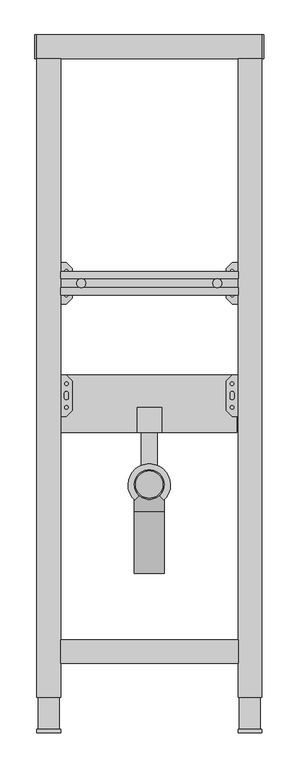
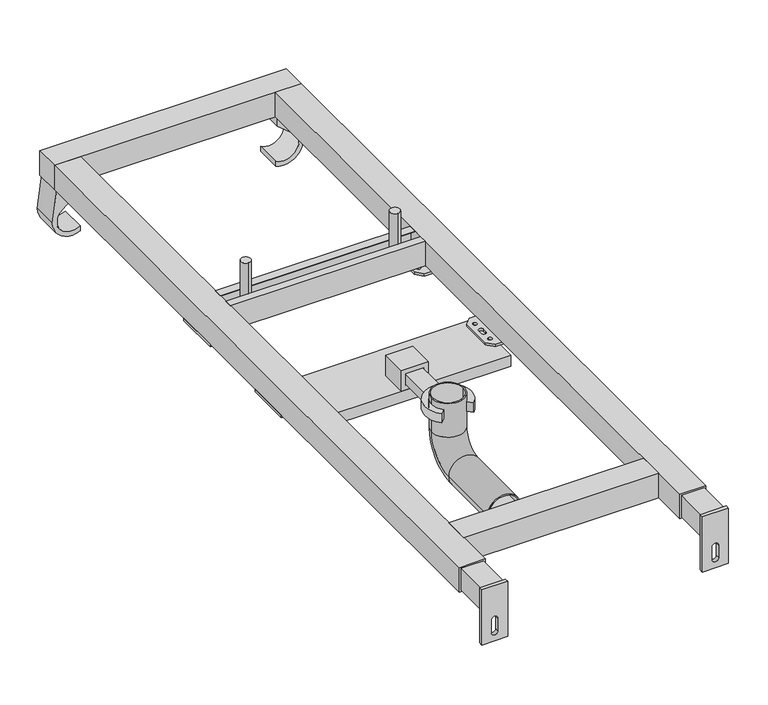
"""IFC4 building model written with IfcOpenShell, lengths in millimetres: sanitary terminal geometry, RSen_74_PF_FB_built-in element washbasin xs angle_wisa : xs washbasin cornerframe_wisa_built in element for washbasin."""

from ifc_helpers import new_model, si_unit, point, frame, frame_2d, origin, place, context, project, spatial, polyline, circle_curve, ellipse_curve, trimmed, segment, composite_curve, outline, extrude, source, transform, mapped, element, save
from ifc_brep_helpers import plane_surface, cylinder_surface, revolved_surface, advanced_brep


def sanitary_terminal_4a14e6a3(model_context):
    return source(origin(), model_context, "Body", "SolidModel", [
        extrude(outline(composite_curve([segment(polyline([(107.0, 193.2537909), (160.0, 186.7462091), (160.0, 153.2537909), (143.6481935, 153.2537909), (128.0557074, 172.5089077), (120.430598, 181.9251335)]), True, "CONTINUOUS"), segment(trimmed(circle_curve(frame_2d((107.0, 163.2537909)), 23.0), [point((120.430598, 181.9251335))], [point((87.6932654, 150.7537909))], True, "CARTESIAN"), True, "CONTINUOUS"), segment(polyline([(87.6932654, 150.7537909), (79.7282197, 150.7537909)]), True, "CONTINUOUS"), segment(trimmed(circle_curve(frame_2d((107.0, 163.2537909)), 30.0), [point((79.7282197, 150.7537909))], [point((107.0, 193.2537909))], False, "CARTESIAN"), True, "CONTINUOUS")], self_intersect=False)), frame((0.0, 1140.0, 0.0), z_axis=(0.0, 1.0, 0.0), x_axis=(0.0, 0.0, 1.0)), (0.0, 0.0, 1.0), 40.0),
        extrude(outline(composite_curve([segment(polyline([(143.6481935, -153.2537909), (160.0, -153.2537909), (160.0, -186.7462091), (107.0, -193.2537909)]), True, "CONTINUOUS"), segment(trimmed(circle_curve(frame_2d((107.0, -163.2537909)), 30.0), [point((107.0, -193.2537909))], [point((79.7282197, -150.7537909))], False, "CARTESIAN"), True, "CONTINUOUS"), segment(polyline([(79.7282197, -150.7537909), (87.6932654, -150.7537909)]), True, "CONTINUOUS"), segment(trimmed(circle_curve(frame_2d((107.0, -163.2537909)), 23.0), [point((87.6932654, -150.7537909))], [point((120.430598, -181.9251335))], True, "CARTESIAN"), True, "CONTINUOUS"), segment(polyline([(120.430598, -181.9251335), (128.0557074, -172.5089077), (143.6481935, -153.2537909)]), True, "CONTINUOUS")], self_intersect=False)), frame((0.0, 1140.0, 0.0), z_axis=(0.0, 1.0, 0.0), x_axis=(0.0, 0.0, 1.0)), (0.0, 0.0, 1.0), 40.0),
        extrude(outline(composite_curve([segment(polyline([(-17.8270587, 400.1688677), (-24.8992187, 393.0967077)]), True, "CONTINUOUS"), segment(trimmed(circle_curve(frame_2d((0.0, 418.75)), 35.75), [point((-24.8992187, 393.0967077))], [point((24.8992187, 393.0967077))], False, "CARTESIAN"), True, "CONTINUOUS"), segment(polyline([(24.8992187, 393.0967077), (17.8270587, 400.1688677)]), True, "CONTINUOUS"), segment(trimmed(circle_curve(frame_2d((0.0, 418.75)), 25.75), [point((17.8270587, 400.1688677))], [point((-17.8270587, 400.1688677))], True, "CARTESIAN"), True, "CONTINUOUS")], self_intersect=False)), frame((0.0, 0.0, 175.75), z_axis=(0.0, 0.0, 1.0), x_axis=(1.0, 0.0, 0.0)), (0.0, 0.0, 1.0), 15.0),
        extrude(outline(polyline([(-13.3214827, 550.0), (13.6785173, 550.0), (13.6785173, 445.8), (-13.3214827, 445.8), (-13.3214827, 550.0)])), frame((0.0, 0.0, 164.75), z_axis=(0.0, 0.0, 1.0), x_axis=(1.0, 0.0, 0.0)), (0.0, 0.0, 1.0), 16.0),
        extrude(outline(polyline([(189.5, 20.9285173), (189.5, -20.5714827), (156.0, -20.5714827), (156.0, 20.9285173), (189.5, 20.9285173)]), holes=[polyline([(182.0, 13.75), (163.5, 13.75), (163.5, -13.75), (182.0, -13.75), (182.0, 13.75)])]), frame((0.0, 508.0, 0.0), z_axis=(0.0, 1.0, 0.0), x_axis=(0.0, 0.0, 1.0)), (0.0, 0.0, 1.0), 42.0),
        extrude(outline(polyline([(148.0, 508.0), (-150.0, 508.0), (-150.0, 605.0), (148.0, 605.0), (148.0, 508.0)])), frame((0.0, 0.0, 138.0), z_axis=(0.0, 0.0, 1.0), x_axis=(1.0, 0.0, 0.0)), (0.0, 0.0, 1.0), 18.0),
        advanced_brep(
        [(-25.0, 419.5, 200.0), (25.0, 419.5, 200.0), (-23.0, 419.5, 200.0), (23.0, 419.5, 200.0), (-25.0, 419.5, 145.0), (25.0, 419.5, 145.0), (25.0, 374.5, 100.0), (-25.0, 374.5, 100.0), (-25.0, 269.5, 100.0), (25.0, 269.5, 100.0), (-23.0, 269.5, 100.0), (23.0, 269.5, 100.0), (-23.0, 419.5, 145.0), (23.0, 419.5, 145.0), (23.0, 374.5, 100.0), (-23.0, 374.5, 100.0)],
        [
            (0, 1, circle_curve(frame((0.0, 419.5, 200.0), z_axis=(0.0, 0.0, 1.0), x_axis=(1.0, 0.0, 0.0)), 25.0)),
            (1, 0, circle_curve(frame((0.0, 419.5, 200.0), z_axis=(0.0, 0.0, 1.0), x_axis=(1.0, 0.0, 0.0)), 25.0)),
            (2, 3, circle_curve(frame((0.0, 419.5, 200.0), z_axis=(0.0, 0.0, -1.0), x_axis=(1.0, 0.0, 0.0)), 23.0)),
            (3, 2, circle_curve(frame((0.0, 419.5, 200.0), z_axis=(0.0, 0.0, -1.0), x_axis=(1.0, 0.0, 0.0)), 23.0)),
            (0, 4),
            (4, 5, circle_curve(frame((0.0, 419.5, 145.0), z_axis=(0.0, 0.0, 1.0), x_axis=(1.0, 0.0, 0.0)), 25.0)),
            (5, 1),
            (5, 4, circle_curve(frame((0.0, 419.5, 145.0), z_axis=(0.0, 0.0, 1.0), x_axis=(1.0, 0.0, 0.0)), 25.0)),
            (6, 5, circle_curve(frame((25.0, 374.5, 145.0), z_axis=(1.0, 0.0, 0.0), x_axis=(0.0, 1.0, 0.0)), 45.0)),
            (4, 7, circle_curve(frame((-25.0, 374.5, 145.0), z_axis=(-1.0, 0.0, 0.0), x_axis=(0.0, 1.0, 0.0)), 45.0)),
            (7, 6, circle_curve(frame((0.0, 374.5, 100.0), z_axis=(0.0, 1.0, 0.0), x_axis=(1.0, 0.0, 0.0)), 25.0)),
            (6, 7, circle_curve(frame((0.0, 374.5, 100.0), z_axis=(0.0, 1.0, 0.0), x_axis=(1.0, 0.0, 0.0)), 25.0)),
            (8, 9, circle_curve(frame((0.0, 269.5, 100.0), z_axis=(0.0, -1.0, 0.0), x_axis=(1.0, 0.0, 0.0)), 25.0)),
            (9, 8, circle_curve(frame((0.0, 269.5, 100.0), z_axis=(0.0, -1.0, 0.0), x_axis=(1.0, 0.0, 0.0)), 25.0)),
            (10, 11, circle_curve(frame((0.0, 269.5, 100.0), z_axis=(0.0, 1.0, 0.0), x_axis=(1.0, 0.0, 0.0)), 23.0)),
            (11, 10, circle_curve(frame((0.0, 269.5, 100.0), z_axis=(0.0, 1.0, 0.0), x_axis=(1.0, 0.0, 0.0)), 23.0)),
            (7, 8),
            (9, 6),
            (2, 12),
            (12, 13, circle_curve(frame((0.0, 419.5, 145.0), z_axis=(0.0, 0.0, -1.0), x_axis=(1.0, 0.0, 0.0)), 23.0)),
            (13, 3),
            (13, 12, circle_curve(frame((0.0, 419.5, 145.0), z_axis=(0.0, 0.0, -1.0), x_axis=(1.0, 0.0, 0.0)), 23.0)),
            (14, 13, circle_curve(frame((23.0, 374.5, 145.0), z_axis=(1.0, 0.0, 0.0), x_axis=(0.0, 1.0, 0.0)), 45.0)),
            (12, 15, circle_curve(frame((-23.0, 374.5, 145.0), z_axis=(-1.0, 0.0, 0.0), x_axis=(0.0, 1.0, 0.0)), 45.0)),
            (15, 14, circle_curve(frame((0.0, 374.5, 100.0), z_axis=(0.0, -1.0, 0.0), x_axis=(1.0, 0.0, 0.0)), 23.0)),
            (14, 15, circle_curve(frame((0.0, 374.5, 100.0), z_axis=(0.0, -1.0, 0.0), x_axis=(1.0, 0.0, 0.0)), 23.0)),
            (15, 10),
            (11, 14),
        ],
        [
            plane_surface(frame((0.0, 419.5, 200.0), z_axis=(0.0, 0.0, 1.0), x_axis=(1.0, 0.0, 0.0))),
            cylinder_surface(frame((0.0, 419.5, 200.0), z_axis=(0.0, 0.0, 1.0), x_axis=(1.0, 0.0, 0.0)), 25.0),
            revolved_surface(trimmed(ellipse_curve(frame((0.0, 419.5, 145.0), z_axis=(0.0, 0.0, 1.0), x_axis=(1.0, 0.0, 0.0)), 25.0, 25.0), [point((-25.0, 419.5, 145.0))], [point((25.0, 419.5, 145.0))], True, "CARTESIAN"), (0.0, 374.5, 145.0), (-1.0, 0.0, 0.0)),
            revolved_surface(trimmed(ellipse_curve(frame((0.0, 419.5, 145.0), z_axis=(0.0, 0.0, 1.0), x_axis=(1.0, 0.0, 0.0)), 25.0, 25.0), [point((25.0, 419.5, 145.0))], [point((-25.0, 419.5, 145.0))], True, "CARTESIAN"), (0.0, 374.5, 145.0), (-1.0, 0.0, 0.0)),
            plane_surface(frame((0.0, 269.5, 100.0), z_axis=(0.0, -1.0, 0.0), x_axis=(1.0, 0.0, 0.0))),
            cylinder_surface(frame((0.0, 374.5, 100.0), z_axis=(0.0, 1.0, 0.0), x_axis=(1.0, 0.0, 0.0)), 25.0),
            revolved_surface(polyline([(23.0, 419.5, 145.0), (23.0, 419.5, 200.0)]), (0.0, 419.5, 200.0), (0.0, 0.0, -1.0)),
            revolved_surface(trimmed(ellipse_curve(frame((0.0, 419.5, 145.0), z_axis=(0.0, 0.0, -1.0), x_axis=(1.0, 0.0, 0.0)), 23.0, 23.0), [point((-23.0, 419.5, 145.0))], [point((23.0, 419.5, 145.0))], True, "CARTESIAN"), (0.0, 374.5, 145.0), (-1.0, 0.0, 0.0)),
            revolved_surface(trimmed(ellipse_curve(frame((0.0, 419.5, 145.0), z_axis=(0.0, 0.0, -1.0), x_axis=(1.0, 0.0, 0.0)), 23.0, 23.0), [point((23.0, 419.5, 145.0))], [point((-23.0, 419.5, 145.0))], True, "CARTESIAN"), (0.0, 374.5, 145.0), (-1.0, 0.0, 0.0)),
            revolved_surface(polyline([(23.0, 269.5, 100.0), (23.0, 374.5, 100.0)]), (0.0, 374.5, 100.0), (0.0, -1.0, 0.0)),
        ],
        [
            (0, [[1, 2], [3, 4]]),
            (1, [[-1, 5, 6, 7]]),
            (1, [[-2, -7, 8, -5]]),
            (2, [[9, -6, 10, 11]]),
            (3, [[-10, -8, -9, 12]]),
            (4, [[13, 14], [15, 16]]),
            (5, [[-11, 17, -14, 18]]),
            (5, [[-12, -18, -13, -17]]),
            (6, [[-3, 19, 20, 21]]),
            (6, [[-4, -21, 22, -19]]),
            (7, [[23, -20, 24, 25]]),
            (8, [[-24, -22, -23, 26]]),
            (9, [[-25, 27, -16, 28]]),
            (9, [[-26, -28, -15, -27]]),
        ],
    ),
        extrude(outline(composite_curve([segment(trimmed(circle_curve(frame_2d((-115.0, 760.0)), 7.5154833), [point((-115.0, 767.5154833))], [point((-115.0, 752.4845167))], False, "CARTESIAN"), True, "CONTINUOUS"), segment(trimmed(circle_curve(frame_2d((-115.0, 760.0)), 7.5154833), [point((-115.0, 752.4845167))], [point((-115.0, 767.5154833))], False, "CARTESIAN"), True, "CONTINUOUS")], self_intersect=False)), frame((0.0, 0.0, 180.0), z_axis=(0.0, 0.0, 1.0), x_axis=(1.0, 0.0, 0.0)), (0.0, 0.0, 1.0), 70.0),
        extrude(outline(composite_curve([segment(trimmed(circle_curve(frame_2d((115.0, 760.0)), 7.5154833), [point((115.0, 767.5154833))], [point((115.0, 752.4845167))], False, "CARTESIAN"), True, "CONTINUOUS"), segment(trimmed(circle_curve(frame_2d((115.0, 760.0)), 7.5154833), [point((115.0, 752.4845167))], [point((115.0, 767.5154833))], False, "CARTESIAN"), True, "CONTINUOUS")], self_intersect=False)), frame((0.0, 0.0, 180.0), z_axis=(0.0, 0.0, 1.0), x_axis=(1.0, 0.0, 0.0)), (0.0, 0.0, 1.0), 70.0),
        extrude(outline(polyline([(740.0, 200.0), (752.4845167, 200.0), (752.4845167, 198.5), (741.5, 198.5), (741.5, 161.5), (778.5, 161.5), (778.5, 198.5), (767.5154833, 198.5), (767.5154833, 200.0), (780.0, 200.0), (780.0, 160.0), (740.0, 160.0), (740.0, 200.0)])), frame((-150.0, 0.0, 0.0), z_axis=(1.0, 0.0, 0.0), x_axis=(0.0, 1.0, 0.0)), (0.0, 0.0, 1.0), 300.0),
        extrude(outline(polyline([(140.0, 725.0), (130.0, 735.0), (130.0, 785.0), (140.0, 795.0), (190.0, 795.0), (190.0, 725.0), (140.0, 725.0)]), holes=[composite_curve([segment(trimmed(circle_curve(frame_2d((175.0, 760.0)), 4.5), [point((175.0, 755.5))], [point((175.0, 764.5))], True, "CARTESIAN"), True, "CONTINUOUS"), segment(trimmed(circle_curve(frame_2d((175.0, 760.0)), 4.5), [point((175.0, 764.5))], [point((175.0, 755.5))], True, "CARTESIAN"), True, "CONTINUOUS")], self_intersect=False), composite_curve([segment(trimmed(circle_curve(frame_2d((175.0, 780.0)), 4.5), [point((175.0, 775.5))], [point((175.0, 784.5))], True, "CARTESIAN"), True, "CONTINUOUS"), segment(trimmed(circle_curve(frame_2d((175.0, 780.0)), 4.5), [point((175.0, 784.5))], [point((175.0, 775.5))], True, "CARTESIAN"), True, "CONTINUOUS")], self_intersect=False), composite_curve([segment(trimmed(circle_curve(frame_2d((175.0, 740.0)), 4.5), [point((175.0, 735.5))], [point((175.0, 744.5))], True, "CARTESIAN"), True, "CONTINUOUS"), segment(trimmed(circle_curve(frame_2d((175.0, 740.0)), 4.5), [point((175.0, 744.5))], [point((175.0, 735.5))], True, "CARTESIAN"), True, "CONTINUOUS")], self_intersect=False), composite_curve([segment(trimmed(circle_curve(frame_2d((140.0, 780.0)), 2.9795218), [point((140.0, 777.0204782))], [point((140.0, 782.9795218))], True, "CARTESIAN"), True, "CONTINUOUS"), segment(trimmed(circle_curve(frame_2d((140.0, 780.0)), 2.9795218), [point((140.0, 782.9795218))], [point((140.0, 777.0204782))], True, "CARTESIAN"), True, "CONTINUOUS")], self_intersect=False), composite_curve([segment(trimmed(circle_curve(frame_2d((140.0, 740.0)), 2.9795218), [point((140.0, 737.0204782))], [point((140.0, 742.9795218))], True, "CARTESIAN"), True, "CONTINUOUS"), segment(trimmed(circle_curve(frame_2d((140.0, 740.0)), 2.9795218), [point((140.0, 742.9795218))], [point((140.0, 737.0204782))], True, "CARTESIAN"), True, "CONTINUOUS")], self_intersect=False), composite_curve([segment(trimmed(circle_curve(frame_2d((140.0, 763.5)), 3.5), [point((143.5, 763.5))], [point((136.5, 763.5))], True, "CARTESIAN"), True, "CONTINUOUS"), segment(polyline([(136.5, 763.5), (136.5, 756.5)]), True, "CONTINUOUS"), segment(trimmed(circle_curve(frame_2d((140.0, 756.5)), 3.5), [point((136.5, 756.5))], [point((143.5, 756.5))], True, "CARTESIAN"), True, "CONTINUOUS"), segment(polyline([(143.5, 756.5), (143.5, 763.5)]), True, "CONTINUOUS")], self_intersect=False)]), frame((0.0, 0.0, 156.0), z_axis=(0.0, 0.0, 1.0), x_axis=(1.0, 0.0, 0.0)), (0.0, 0.0, 1.0), 4.0),
        extrude(outline(polyline([(-140.0, 725.0), (-190.0, 725.0), (-190.0, 795.0), (-140.0, 795.0), (-130.0, 785.0), (-130.0, 735.0), (-140.0, 725.0)]), holes=[composite_curve([segment(trimmed(circle_curve(frame_2d((-175.0, 760.0)), 4.5), [point((-175.0, 755.5))], [point((-175.0, 764.5))], True, "CARTESIAN"), True, "CONTINUOUS"), segment(trimmed(circle_curve(frame_2d((-175.0, 760.0)), 4.5), [point((-175.0, 764.5))], [point((-175.0, 755.5))], True, "CARTESIAN"), True, "CONTINUOUS")], self_intersect=False), composite_curve([segment(trimmed(circle_curve(frame_2d((-175.0, 780.0)), 4.5), [point((-175.0, 775.5))], [point((-175.0, 784.5))], True, "CARTESIAN"), True, "CONTINUOUS"), segment(trimmed(circle_curve(frame_2d((-175.0, 780.0)), 4.5), [point((-175.0, 784.5))], [point((-175.0, 775.5))], True, "CARTESIAN"), True, "CONTINUOUS")], self_intersect=False), composite_curve([segment(trimmed(circle_curve(frame_2d((-175.0, 740.0)), 4.5), [point((-175.0, 735.5))], [point((-175.0, 744.5))], True, "CARTESIAN"), True, "CONTINUOUS"), segment(trimmed(circle_curve(frame_2d((-175.0, 740.0)), 4.5), [point((-175.0, 744.5))], [point((-175.0, 735.5))], True, "CARTESIAN"), True, "CONTINUOUS")], self_intersect=False), composite_curve([segment(trimmed(circle_curve(frame_2d((-140.0, 780.0)), 2.9795218), [point((-140.0, 777.0204782))], [point((-140.0, 782.9795218))], True, "CARTESIAN"), True, "CONTINUOUS"), segment(trimmed(circle_curve(frame_2d((-140.0, 780.0)), 2.9795218), [point((-140.0, 782.9795218))], [point((-140.0, 777.0204782))], True, "CARTESIAN"), True, "CONTINUOUS")], self_intersect=False), composite_curve([segment(trimmed(circle_curve(frame_2d((-140.0, 740.0)), 2.9795218), [point((-140.0, 737.0204782))], [point((-140.0, 742.9795218))], True, "CARTESIAN"), True, "CONTINUOUS"), segment(trimmed(circle_curve(frame_2d((-140.0, 740.0)), 2.9795218), [point((-140.0, 742.9795218))], [point((-140.0, 737.0204782))], True, "CARTESIAN"), True, "CONTINUOUS")], self_intersect=False), composite_curve([segment(polyline([(-143.5, 763.5), (-143.5, 756.5)]), True, "CONTINUOUS"), segment(trimmed(circle_curve(frame_2d((-140.0, 756.5)), 3.5), [point((-143.5, 756.5))], [point((-136.5, 756.5))], True, "CARTESIAN"), True, "CONTINUOUS"), segment(polyline([(-136.5, 756.5), (-136.5, 763.5)]), True, "CONTINUOUS"), segment(trimmed(circle_curve(frame_2d((-140.0, 763.5)), 3.5), [point((-136.5, 763.5))], [point((-143.5, 763.5))], True, "CARTESIAN"), True, "CONTINUOUS")], self_intersect=False)]), frame((0.0, 0.0, 156.0), z_axis=(0.0, 0.0, 1.0), x_axis=(1.0, 0.0, 0.0)), (0.0, 0.0, 1.0), 4.0),
        extrude(outline(polyline([(140.0, 535.0), (130.0, 545.0), (130.0, 595.0), (140.0, 605.0), (190.0, 605.0), (190.0, 535.0), (140.0, 535.0)]), holes=[composite_curve([segment(trimmed(circle_curve(frame_2d((175.0, 570.0)), 4.5), [point((175.0, 565.5))], [point((175.0, 574.5))], True, "CARTESIAN"), True, "CONTINUOUS"), segment(trimmed(circle_curve(frame_2d((175.0, 570.0)), 4.5), [point((175.0, 574.5))], [point((175.0, 565.5))], True, "CARTESIAN"), True, "CONTINUOUS")], self_intersect=False), composite_curve([segment(trimmed(circle_curve(frame_2d((175.0, 590.0)), 4.5), [point((175.0, 585.5))], [point((175.0, 594.5))], True, "CARTESIAN"), True, "CONTINUOUS"), segment(trimmed(circle_curve(frame_2d((175.0, 590.0)), 4.5), [point((175.0, 594.5))], [point((175.0, 585.5))], True, "CARTESIAN"), True, "CONTINUOUS")], self_intersect=False), composite_curve([segment(trimmed(circle_curve(frame_2d((175.0, 550.0)), 4.5), [point((175.0, 545.5))], [point((175.0, 554.5))], True, "CARTESIAN"), True, "CONTINUOUS"), segment(trimmed(circle_curve(frame_2d((175.0, 550.0)), 4.5), [point((175.0, 554.5))], [point((175.0, 545.5))], True, "CARTESIAN"), True, "CONTINUOUS")], self_intersect=False), composite_curve([segment(trimmed(circle_curve(frame_2d((140.0, 590.0)), 2.9795218), [point((140.0, 587.0204782))], [point((140.0, 592.9795218))], True, "CARTESIAN"), True, "CONTINUOUS"), segment(trimmed(circle_curve(frame_2d((140.0, 590.0)), 2.9795218), [point((140.0, 592.9795218))], [point((140.0, 587.0204782))], True, "CARTESIAN"), True, "CONTINUOUS")], self_intersect=False), composite_curve([segment(trimmed(circle_curve(frame_2d((140.0, 550.0)), 2.9795218), [point((140.0, 547.0204782))], [point((140.0, 552.9795218))], True, "CARTESIAN"), True, "CONTINUOUS"), segment(trimmed(circle_curve(frame_2d((140.0, 550.0)), 2.9795218), [point((140.0, 552.9795218))], [point((140.0, 547.0204782))], True, "CARTESIAN"), True, "CONTINUOUS")], self_intersect=False), composite_curve([segment(trimmed(circle_curve(frame_2d((140.0, 573.5)), 3.5), [point((143.5, 573.5))], [point((136.5, 573.5))], True, "CARTESIAN"), True, "CONTINUOUS"), segment(polyline([(136.5, 573.5), (136.5, 566.5)]), True, "CONTINUOUS"), segment(trimmed(circle_curve(frame_2d((140.0, 566.5)), 3.5), [point((136.5, 566.5))], [point((143.5, 566.5))], True, "CARTESIAN"), True, "CONTINUOUS"), segment(polyline([(143.5, 566.5), (143.5, 573.5)]), True, "CONTINUOUS")], self_intersect=False)]), frame((0.0, 0.0, 156.0), z_axis=(0.0, 0.0, 1.0), x_axis=(1.0, 0.0, 0.0)), (0.0, 0.0, 1.0), 4.0),
        extrude(outline(polyline([(-140.0, 535.0), (-190.0, 535.0), (-190.0, 605.0), (-140.0, 605.0), (-130.0, 595.0), (-130.0, 545.0), (-140.0, 535.0)]), holes=[composite_curve([segment(trimmed(circle_curve(frame_2d((-175.0, 570.0)), 4.5), [point((-175.0, 565.5))], [point((-175.0, 574.5))], True, "CARTESIAN"), True, "CONTINUOUS"), segment(trimmed(circle_curve(frame_2d((-175.0, 570.0)), 4.5), [point((-175.0, 574.5))], [point((-175.0, 565.5))], True, "CARTESIAN"), True, "CONTINUOUS")], self_intersect=False), composite_curve([segment(trimmed(circle_curve(frame_2d((-175.0, 590.0)), 4.5), [point((-175.0, 585.5))], [point((-175.0, 594.5))], True, "CARTESIAN"), True, "CONTINUOUS"), segment(trimmed(circle_curve(frame_2d((-175.0, 590.0)), 4.5), [point((-175.0, 594.5))], [point((-175.0, 585.5))], True, "CARTESIAN"), True, "CONTINUOUS")], self_intersect=False), composite_curve([segment(trimmed(circle_curve(frame_2d((-175.0, 550.0)), 4.5), [point((-175.0, 545.5))], [point((-175.0, 554.5))], True, "CARTESIAN"), True, "CONTINUOUS"), segment(trimmed(circle_curve(frame_2d((-175.0, 550.0)), 4.5), [point((-175.0, 554.5))], [point((-175.0, 545.5))], True, "CARTESIAN"), True, "CONTINUOUS")], self_intersect=False), composite_curve([segment(trimmed(circle_curve(frame_2d((-140.0, 590.0)), 2.9795218), [point((-140.0, 587.0204782))], [point((-140.0, 592.9795218))], True, "CARTESIAN"), True, "CONTINUOUS"), segment(trimmed(circle_curve(frame_2d((-140.0, 590.0)), 2.9795218), [point((-140.0, 592.9795218))], [point((-140.0, 587.0204782))], True, "CARTESIAN"), True, "CONTINUOUS")], self_intersect=False), composite_curve([segment(trimmed(circle_curve(frame_2d((-140.0, 550.0)), 2.9795218), [point((-140.0, 547.0204782))], [point((-140.0, 552.9795218))], True, "CARTESIAN"), True, "CONTINUOUS"), segment(trimmed(circle_curve(frame_2d((-140.0, 550.0)), 2.9795218), [point((-140.0, 552.9795218))], [point((-140.0, 547.0204782))], True, "CARTESIAN"), True, "CONTINUOUS")], self_intersect=False), composite_curve([segment(polyline([(-143.5, 573.5), (-143.5, 566.5)]), True, "CONTINUOUS"), segment(trimmed(circle_curve(frame_2d((-140.0, 566.5)), 3.5), [point((-143.5, 566.5))], [point((-136.5, 566.5))], True, "CARTESIAN"), True, "CONTINUOUS"), segment(polyline([(-136.5, 566.5), (-136.5, 573.5)]), True, "CONTINUOUS"), segment(trimmed(circle_curve(frame_2d((-140.0, 573.5)), 3.5), [point((-136.5, 573.5))], [point((-143.5, 573.5))], True, "CARTESIAN"), True, "CONTINUOUS")], self_intersect=False)]), frame((0.0, 0.0, 156.0), z_axis=(0.0, 0.0, 1.0), x_axis=(1.0, 0.0, 0.0)), (0.0, 0.0, 1.0), 4.0),
        extrude(outline(polyline([(-187.5, 549.0), (-152.5, 549.0), (-152.5, 6.0), (-187.5, 6.0), (-187.5, 549.0)])), frame((0.0, 0.0, 162.5), z_axis=(0.0, 0.0, 1.0), x_axis=(1.0, 0.0, 0.0)), (0.0, 0.0, 1.0), 35.0),
        extrude(outline(polyline([(152.4841074, 549.0), (187.4841074, 549.0), (187.4841074, 6.0), (152.4841074, 6.0), (152.4841074, 549.0)])), frame((0.0, 0.0, 162.5), z_axis=(0.0, 0.0, 1.0), x_axis=(1.0, 0.0, 0.0)), (0.0, 0.0, 1.0), 35.0),
        extrude(outline(polyline([(200.0, 190.0), (200.0, 150.0), (110.0, 150.0), (110.0, 190.0), (200.0, 190.0)]), holes=[composite_curve([segment(trimmed(circle_curve(frame_2d((145.0, 170.0)), 5.0), [point((145.0, 165.0))], [point((145.0, 175.0))], True, "CARTESIAN"), True, "CONTINUOUS"), segment(polyline([(145.0, 175.0), (125.0, 175.0)]), True, "CONTINUOUS"), segment(trimmed(circle_curve(frame_2d((125.0, 170.0)), 5.0), [point((125.0, 175.0))], [point((125.0, 165.0))], True, "CARTESIAN"), True, "CONTINUOUS"), segment(polyline([(125.0, 165.0), (145.0, 165.0)]), True, "CONTINUOUS")], self_intersect=False)]), frame((0.0, 0.0, 0.0), z_axis=(0.0, 1.0, 0.0), x_axis=(0.0, 0.0, 1.0)), (0.0, 0.0, 1.0), 6.0),
        extrude(outline(polyline([(200.0, -150.0), (200.0, -190.0), (110.0, -190.0), (110.0, -150.0), (200.0, -150.0)]), holes=[composite_curve([segment(trimmed(circle_curve(frame_2d((145.0, -170.0)), 5.0), [point((145.0, -175.0))], [point((145.0, -165.0))], True, "CARTESIAN"), True, "CONTINUOUS"), segment(polyline([(145.0, -165.0), (125.0, -165.0)]), True, "CONTINUOUS"), segment(trimmed(circle_curve(frame_2d((125.0, -170.0)), 5.0), [point((125.0, -165.0))], [point((125.0, -175.0))], True, "CARTESIAN"), True, "CONTINUOUS"), segment(polyline([(125.0, -175.0), (145.0, -175.0)]), True, "CONTINUOUS")], self_intersect=False)]), frame((0.0, 0.0, 0.0), z_axis=(0.0, 1.0, 0.0), x_axis=(0.0, 0.0, 1.0)), (0.0, 0.0, 1.0), 6.0),
        extrude(outline(polyline([(150.0, 157.0), (150.0, 117.0), (-150.0, 117.0), (-150.0, 157.0), (150.0, 157.0)])), frame((0.0, 0.0, 160.0), z_axis=(0.0, 0.0, 1.0), x_axis=(1.0, 0.0, 0.0)), (0.0, 0.0, 1.0), 40.0),
        extrude(outline(polyline([(-150.0, 60.0), (-190.0, 60.0), (-190.0, 1140.0), (-150.0, 1140.0), (-150.0, 60.0)])), frame((0.0, 0.0, 160.0), z_axis=(0.0, 0.0, 1.0), x_axis=(1.0, 0.0, 0.0)), (0.0, 0.0, 1.0), 40.0),
        extrude(outline(polyline([(190.0, 60.0), (150.0, 60.0), (150.0, 1140.0), (190.0, 1140.0), (190.0, 60.0)])), frame((0.0, 0.0, 160.0), z_axis=(0.0, 0.0, 1.0), x_axis=(1.0, 0.0, 0.0)), (0.0, 0.0, 1.0), 40.0),
        extrude(outline(polyline([(190.0, 1180.0), (190.0, 1140.0), (-190.0, 1140.0), (-190.0, 1180.0), (190.0, 1180.0)])), frame((0.0, 0.0, 160.0), z_axis=(0.0, 0.0, 1.0), x_axis=(1.0, 0.0, 0.0)), (0.0, 0.0, 1.0), 40.0),
    ])


if __name__ == "__main__":
    model = new_model("IFC4")
    model_context = context("Model", 3, world=origin())
    ifc_project = project(units=[si_unit("LENGTHUNIT", "METRE", prefix="MILLI")], contexts=[model_context])
    site = spatial("IfcSite", under=ifc_project)
    building = spatial("IfcBuilding", under=site)
    placement = place(None, origin())
    sanitary_terminal_shape = sanitary_terminal_4a14e6a3(model_context)
    element("IfcSanitaryTerminal", 1, ObjectType="RSen_74_PF_FB_built-in element washbasin xs angle_wisa : xs washbasin cornerframe_wisa_built in element for washbasin", at=placement, inside=building, context=model_context, shape_type="MappedRepresentation", body=[
        mapped(sanitary_terminal_shape, transform((0.0, 0.0, 0.0), x_axis=(1.0, 0.0, 0.0), y_axis=(0.0, 1.0, 0.0), z_axis=(0.0, 0.0, 1.0))),
    ])
    save(model, "model.ifc")
